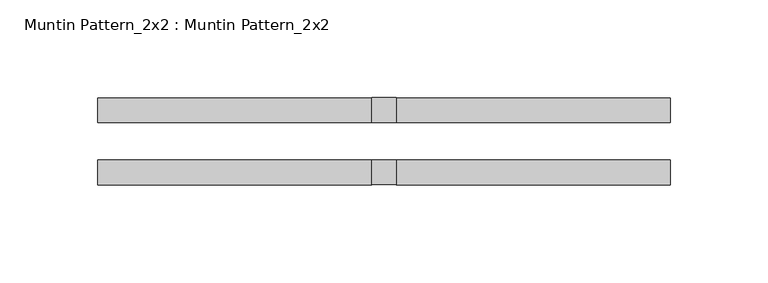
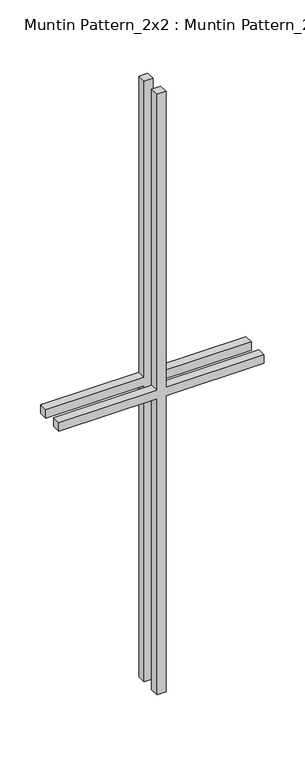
"""IFC4 building model written with IfcOpenShell, lengths in millimetres: proxy geometry, Muntin Pattern_2x2 : Muntin Pattern_2x2."""

import ifcopenshell
import ifcopenshell.guid

model = None  # the IFC model being written
_history = None  # IfcOwnerHistory: only IFC2X3 demands one
_inside = {}  # id of a spatial element -> (the spatial element, [elements in it])
_under = {}  # id of a project, library or spatial element -> (it, [spatial elements below it])
_declared = {}  # id of a project -> (the project, [libraries it declares])
_typed = {}  # id of a type object -> (the type object, [elements of that type])
_made_of = {}  # id of a material, layer set ... -> (it, [elements and type objects made of it])


def new_model(schema):
    """Start an empty IFC model of exactly this schema.

    Asked for "IFC4X3", IfcOpenShell would pick the latest addendum, in which some entities
    have other attributes; the version numbers below select the first issue.
    IFC2X3 requires an IfcOwnerHistory on every rooted entity: one is made here for all.
    """
    global model, _history
    if schema == "IFC4X3":
        model = ifcopenshell.file(schema_version=(4, 3, 0, 0))
    else:
        model = ifcopenshell.file(schema=schema)
    _inside.clear()
    _under.clear()
    _declared.clear()
    _typed.clear()
    _made_of.clear()
    _history = None
    if model.schema == "IFC2X3":
        org = make("IfcOrganization", Name="unknown")
        user = make(
            "IfcPersonAndOrganization",
            ThePerson=make("IfcPerson", FamilyName="unknown"),
            TheOrganization=org,
        )
        app = make(
            "IfcApplication",
            ApplicationDeveloper=org,
            Version="unknown",
            ApplicationFullName="unknown",
            ApplicationIdentifier="unknown",
        )
        _history = make(
            "IfcOwnerHistory",
            OwningUser=user,
            OwningApplication=app,
            ChangeAction="ADDED",
            CreationDate=0,
        )
    return model


def make(cls, **values):
    """One entity of the class cls with the attributes given. An attribute that is None is left unset."""
    return model.create_entity(
        cls, **{name: value for name, value in values.items() if value is not None}
    )


def rooted(cls, **values):
    """An entity with a GlobalId (a new one), such as an element, a storey or a relation."""
    return make(cls, GlobalId=ifcopenshell.guid.new(), OwnerHistory=_history, **values)


def si_unit(unit_type, name, prefix=None):
    """IfcSIUnit, for example si_unit("LENGTHUNIT", "METRE", prefix="MILLI")."""
    return make("IfcSIUnit", UnitType=unit_type, Prefix=prefix, Name=name)


def assignment(units):
    """IfcUnitAssignment: the units of a project."""
    return None if units is None else make("IfcUnitAssignment", Units=units)


def point(xyz):
    """IfcCartesianPoint."""
    return None if xyz is None else make("IfcCartesianPoint", Coordinates=xyz)


def direction(xyz):
    """IfcDirection."""
    return None if xyz is None else make("IfcDirection", DirectionRatios=xyz)


def frame(location, z_axis=None, x_axis=None):
    """IfcAxis2Placement3D, a coordinate frame: its origin and axes. An axis left out is left unset."""
    return make(
        "IfcAxis2Placement3D",
        Location=point(location),
        Axis=direction(z_axis),
        RefDirection=direction(x_axis),
    )


def origin():
    """The frame at (0, 0, 0) with its axes left unset."""
    return frame((0.0, 0.0, 0.0))


def place(relative_to, where):
    """IfcLocalPlacement: puts the frame where relative to a parent placement (None: the world)."""
    return make(
        "IfcLocalPlacement", PlacementRelTo=relative_to, RelativePlacement=where
    )


def context(
    kind, dimensions, precision=None, world=None, true_north=None, identifier=None
):
    """IfcGeometricRepresentationContext, for example the 3D "Model" context."""
    return make(
        "IfcGeometricRepresentationContext",
        ContextIdentifier=identifier,
        ContextType=kind,
        CoordinateSpaceDimension=dimensions,
        Precision=precision,
        WorldCoordinateSystem=world,
        TrueNorth=true_north,
    )


def project(units=None, contexts=None):
    """IfcProject with its units and contexts."""
    return rooted(
        "IfcProject",
        Name="project",
        RepresentationContexts=contexts,
        UnitsInContext=assignment(units),
    )


def spatial(cls, under=None, at=None, **own):
    """A site, building, storey or space (cls), placed at a placement, below another one or the project."""
    s = rooted(cls, ObjectPlacement=at, **own)
    if under is not None:
        _under.setdefault(under.id(), (under, []))[1].append(s)
    return s


def polyline(points):
    """IfcPolyline through the points."""
    return make("IfcPolyline", Points=[point(p) for p in points])


def outline(outer, holes=None, kind="AREA"):
    """IfcArbitraryClosedProfileDef: a profile drawn as a closed curve; with holes, ...WithVoids."""
    if holes is None:
        return make("IfcArbitraryClosedProfileDef", ProfileType=kind, OuterCurve=outer)
    return make(
        "IfcArbitraryProfileDefWithVoids",
        ProfileType=kind,
        OuterCurve=outer,
        InnerCurves=holes,
    )


def extrude(swept, where, along, depth):
    """IfcExtrudedAreaSolid: the profile swept, set in the frame where, extruded along a direction by depth."""
    return make(
        "IfcExtrudedAreaSolid",
        SweptArea=swept,
        Position=where,
        ExtrudedDirection=direction(along),
        Depth=depth,
    )


def shape(context_of_items, identifier, shape_type, items):
    """IfcShapeRepresentation: the items that make up one representation, for example the "Body"."""
    return make(
        "IfcShapeRepresentation",
        ContextOfItems=context_of_items,
        RepresentationIdentifier=identifier,
        RepresentationType=shape_type,
        Items=items,
    )


def source(mapping_origin, context_of_items, identifier, shape_type, items):
    """IfcRepresentationMap: a shape defined once, which mapped items show again and again."""
    return make(
        "IfcRepresentationMap",
        MappingOrigin=mapping_origin,
        MappedRepresentation=shape(context_of_items, identifier, shape_type, items),
    )


def transform(
    local_origin,
    x_axis=None,
    y_axis=None,
    z_axis=None,
    scale=None,
    scale2=None,
    scale3=None,
    uniform=True,
):
    """IfcCartesianTransformationOperator3D, or its non-uniform kind. x_axis, y_axis, z_axis: its Axis1, 2, 3."""
    if uniform:
        return make(
            "IfcCartesianTransformationOperator3D",
            Axis1=direction(x_axis),
            Axis2=direction(y_axis),
            LocalOrigin=point(local_origin),
            Scale=scale,
            Axis3=direction(z_axis),
        )
    return make(
        "IfcCartesianTransformationOperator3DnonUniform",
        Axis1=direction(x_axis),
        Axis2=direction(y_axis),
        LocalOrigin=point(local_origin),
        Scale=scale,
        Axis3=direction(z_axis),
        Scale2=scale2,
        Scale3=scale3,
    )


def mapped(mapping_source, mapping_target):
    """IfcMappedItem: shows the shape of a source again, moved by a transform."""
    return make(
        "IfcMappedItem", MappingSource=mapping_source, MappingTarget=mapping_target
    )


def made_of(thing, what):
    """Note that an element or type object is made of a material, layer set ...; save() writes the relation."""
    if what is not None:
        _made_of.setdefault(what.id(), (what, []))[1].append(thing)
    return thing


def element(
    cls,
    number,
    at=None,
    inside=None,
    cuts=None,
    type_object=None,
    material=None,
    context=None,
    identifier="Body",
    shape_type=None,
    held_by="IfcProductDefinitionShape",
    body=None,
    shapes=None,
    **own,
):
    """One element of the class cls, such as IfcWall. Its Tag is "e" and its number.

    at: its placement. inside: the storey or other place that contains it. cuts: it is an
    opening in that element (IfcRelVoidsElement). A single representation is given by context,
    identifier, shape_type and body (its items); several are given by shapes. held_by: the class
    of the entity that holds the representations. save() writes the other relations.
    """
    e = rooted(cls, Tag="e%d" % number, ObjectPlacement=at, **own)
    if body is not None:
        shapes = [shape(context, identifier, shape_type, body)]
    if shapes is not None:
        e.Representation = make(held_by, Representations=shapes)
    if inside is not None:
        _inside.setdefault(inside.id(), (inside, []))[1].append(e)
    if cuts is not None:
        rooted(
            "IfcRelVoidsElement", RelatingBuildingElement=cuts, RelatedOpeningElement=e
        )
    if type_object is not None:
        _typed.setdefault(type_object.id(), (type_object, []))[1].append(e)
    return made_of(e, material)


def aggregate(whole, parts):
    """IfcRelAggregates: a whole, such as a stair, and the parts it consists of."""
    return rooted("IfcRelAggregates", RelatingObject=whole, RelatedObjects=parts)


def save(model, path):
    """Write the relations noted so far, then the file.

    IfcRelAggregates (storeys below a building ...), IfcRelContainedInSpatialStructure (elements
    in a storey), IfcRelDefinesByType, IfcRelAssociatesMaterial and IfcRelDeclares: one each for
    every whole, place, type object, material and project.
    """
    for whole, parts in _under.values():
        aggregate(whole, parts)
    for where, things in _inside.values():
        rooted(
            "IfcRelContainedInSpatialStructure",
            RelatedElements=things,
            RelatingStructure=where,
        )
    for kind, things in _typed.values():
        rooted("IfcRelDefinesByType", RelatedObjects=things, RelatingType=kind)
    for what, things in _made_of.values():
        rooted("IfcRelAssociatesMaterial", RelatedObjects=things, RelatingMaterial=what)
    for by, libraries in _declared.values():
        rooted("IfcRelDeclares", RelatingContext=by, RelatedDefinitions=libraries)
    model.write(path)


def muntin_pattern_2x2_muntin_pattern_2x2_c19c2a3f(model_context):
    return source(origin(), model_context, "Body", "SweptSolid", [
        extrude(outline(polyline([(457.2, -6.35), (457.2, -146.05), (444.5, -146.05), (444.5, -6.35), (0.0, -6.35), (0.0, 6.35), (444.5, 6.35), (444.5, 146.05), (457.2, 146.05), (457.2, 6.35), (901.7, 6.35), (901.7, -6.35), (457.2, -6.35)])), frame((0.0, 9.525, 0.0), z_axis=(0.0, 1.0, 0.0), x_axis=(0.0, 0.0, 1.0)), (0.0, 0.0, 1.0), 12.7),
        extrude(outline(polyline([(457.2, -6.35), (457.2, -146.05), (444.5, -146.05), (444.5, -6.35), (0.0, -6.35), (0.0, 6.35), (444.5, 6.35), (444.5, 146.05), (457.2, 146.05), (457.2, 6.35), (901.7, 6.35), (901.7, -6.35), (457.2, -6.35)])), frame((0.0, -22.225, 0.0), z_axis=(0.0, 1.0, 0.0), x_axis=(0.0, 0.0, 1.0)), (0.0, 0.0, 1.0), 12.7),
    ])


if __name__ == "__main__":
    model = new_model("IFC4")
    model_context = context("Model", 3, world=origin())
    ifc_project = project(units=[si_unit("LENGTHUNIT", "METRE", prefix="MILLI")], contexts=[model_context])
    site = spatial("IfcSite", under=ifc_project)
    building = spatial("IfcBuilding", under=site)
    placement = place(None, origin())
    muntin_pattern_2x2_muntin_pattern_2x2_shape = muntin_pattern_2x2_muntin_pattern_2x2_c19c2a3f(model_context)
    element("IfcBuildingElementProxy", 1, Name="Muntin Pattern_2x2 : Muntin Pattern_2x2", ObjectType="Muntin Pattern_2x2 : Muntin Pattern_2x2", at=placement, inside=building, context=model_context, shape_type="MappedRepresentation", body=[
        mapped(muntin_pattern_2x2_muntin_pattern_2x2_shape, transform((0.0, 0.0, 0.0), x_axis=(1.0, 0.0, 0.0), y_axis=(0.0, 1.0, 0.0), z_axis=(0.0, 0.0, 1.0))),
    ])
    save(model, "model.ifc")
